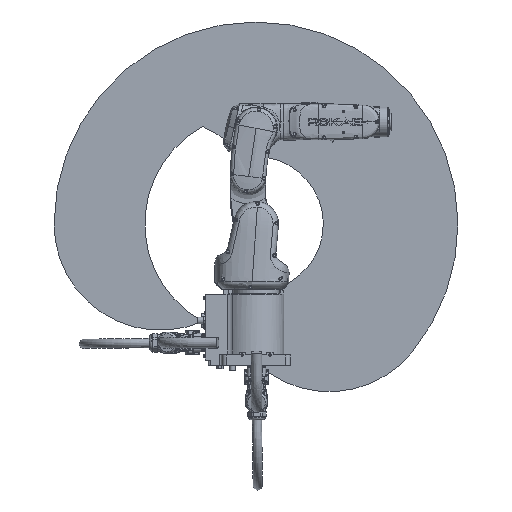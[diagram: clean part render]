
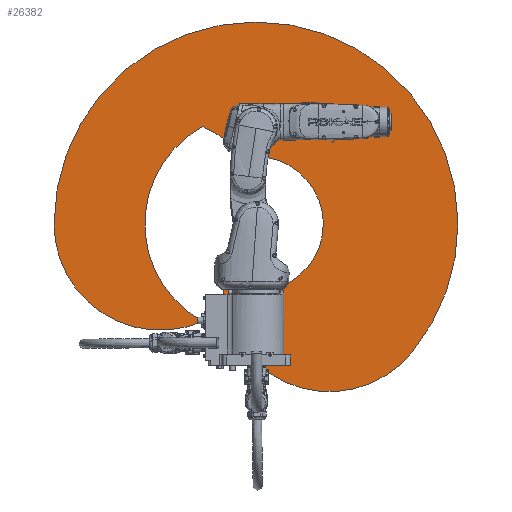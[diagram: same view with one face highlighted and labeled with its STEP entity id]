
A CAD part, front view. The second image highlights one B-rep face of the part: STEP entity #26382.
In plain terms, the highlighted planar face has unit normal (0, -1, 0) as drawn and (0, 0, 1) by its records, which use the part's own axes.
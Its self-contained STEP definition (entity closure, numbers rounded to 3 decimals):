
#4673=PLANE('',#85335);
#9892=FACE_OUTER_BOUND('',#33657,.T.);
#12696=CIRCLE('',#85329,250.032);
#12697=CIRCLE('',#85330,261.525);
#12698=CIRCLE('',#85331,250.032);
#12699=CIRCLE('',#85332,158.183);
#12700=CIRCLE('',#85333,250.032);
#12701=CIRCLE('',#85334,475.032);
#26382=ADVANCED_FACE('',(#9892),#4673,.T.);
#33657=EDGE_LOOP('',(#55960,#55961,#55962,#55963,#55964,#55965));
#55960=ORIENTED_EDGE('',*,*,#74574,.T.);
#55961=ORIENTED_EDGE('',*,*,#74575,.T.);
#55962=ORIENTED_EDGE('',*,*,#74576,.T.);
#55963=ORIENTED_EDGE('',*,*,#74577,.T.);
#55964=ORIENTED_EDGE('',*,*,#74578,.T.);
#55965=ORIENTED_EDGE('',*,*,#74579,.T.);
#63417=VERTEX_POINT('',#804931);
#63418=VERTEX_POINT('',#804932);
#63419=VERTEX_POINT('',#804934);
#63420=VERTEX_POINT('',#804936);
#63421=VERTEX_POINT('',#804938);
#63422=VERTEX_POINT('',#804940);
#74574=EDGE_CURVE('',#63417,#63418,#12696,.T.);
#74575=EDGE_CURVE('',#63418,#63419,#12697,.T.);
#74576=EDGE_CURVE('',#63419,#63420,#12698,.T.);
#74577=EDGE_CURVE('',#63420,#63421,#12699,.T.);
#74578=EDGE_CURVE('',#63421,#63422,#12700,.T.);
#74579=EDGE_CURVE('',#63422,#63417,#12701,.T.);
#85329=AXIS2_PLACEMENT_3D('',#804930,#103086,#103087);
#85330=AXIS2_PLACEMENT_3D('',#804933,#103088,#103089);
#85331=AXIS2_PLACEMENT_3D('',#804935,#103090,#103091);
#85332=AXIS2_PLACEMENT_3D('',#804937,#103092,#103093);
#85333=AXIS2_PLACEMENT_3D('',#804939,#103094,#103095);
#85334=AXIS2_PLACEMENT_3D('',#804941,#103096,#103097);
#85335=AXIS2_PLACEMENT_3D('',#804942,#103098,#103099);
#103086=DIRECTION('',(0.,0.,1.));
#103087=DIRECTION('',(1.,0.,0.));
#103088=DIRECTION('',(0.,0.,-1.));
#103089=DIRECTION('',(1.,0.,0.));
#103090=DIRECTION('',(0.,0.,-1.));
#103091=DIRECTION('',(1.,0.,0.));
#103092=DIRECTION('',(0.,0.,-1.));
#103093=DIRECTION('',(1.,0.,0.));
#103094=DIRECTION('',(0.,0.,1.));
#103095=DIRECTION('',(1.,0.,0.));
#103096=DIRECTION('',(0.,0.,1.));
#103097=DIRECTION('',(1.,0.,0.));
#103098=DIRECTION('',(0.,0.,1.));
#103099=DIRECTION('',(1.,0.,0.));
#804930=CARTESIAN_POINT('',(274.788,424.401,0.));
#804931=CARTESIAN_POINT('',(24.755,424.502,0.));
#804932=CARTESIAN_POINT('',(374.234,194.996,0.));
#804933=CARTESIAN_POINT('',(499.788,424.412,0.));
#804934=CARTESIAN_POINT('',(374.212,653.815,0.));
#804935=CARTESIAN_POINT('',(274.788,424.401,0.));
#804936=CARTESIAN_POINT('',(470.621,579.852,0.));
#804937=CARTESIAN_POINT('',(499.947,424.412,0.));
#804938=CARTESIAN_POINT('',(422.304,286.595,0.));
#804939=CARTESIAN_POINT('',(672.245,279.851,0.));
#804940=CARTESIAN_POINT('',(867.535,123.717,0.));
#804941=CARTESIAN_POINT('',(499.788,424.412,0.));
#804942=CARTESIAN_POINT('',(387.288,424.406,0.));
